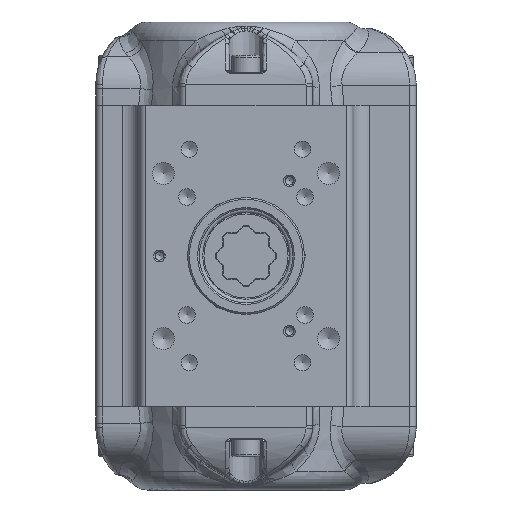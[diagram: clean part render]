
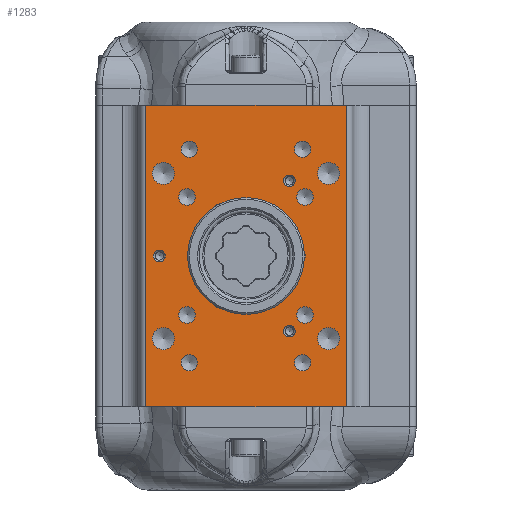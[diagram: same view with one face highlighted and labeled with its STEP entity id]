
A CAD part, front view. The second image highlights one B-rep face of the part: STEP entity #1283.
In plain terms, the highlighted planar face has unit normal (0, -1, 0).
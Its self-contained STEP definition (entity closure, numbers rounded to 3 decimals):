
#542=CARTESIAN_POINT('',(14.75,-49.5,22.517));
#543=VERTEX_POINT('',#542);
#544=CARTESIAN_POINT('',(13.,-49.5,22.517));
#545=DIRECTION('',(0.0,1.0,0.0));
#546=DIRECTION('',(1.0,0.0,0.0));
#547=AXIS2_PLACEMENT_3D('',#544,#545,#546);
#548=CIRCLE('',#547,1.75);
#549=EDGE_CURVE('',#543,#543,#548,.T.);
#599=CARTESIAN_POINT('',(-24.25,-49.5,0.0));
#600=VERTEX_POINT('',#599);
#601=CARTESIAN_POINT('',(-26.0,-49.5,0.0));
#602=DIRECTION('',(0.0,1.0,0.0));
#603=DIRECTION('',(1.0,0.0,0.0));
#604=AXIS2_PLACEMENT_3D('',#601,#602,#603);
#605=CIRCLE('',#604,1.75);
#606=EDGE_CURVE('',#600,#600,#605,.T.);
#656=CARTESIAN_POINT('',(14.75,-49.5,-22.517));
#657=VERTEX_POINT('',#656);
#658=CARTESIAN_POINT('',(13.,-49.5,-22.517));
#659=DIRECTION('',(0.0,1.0,0.0));
#660=DIRECTION('',(1.0,0.0,0.0));
#661=AXIS2_PLACEMENT_3D('',#658,#659,#660);
#662=CIRCLE('',#661,1.75);
#663=EDGE_CURVE('',#657,#657,#662,.T.);
#713=CARTESIAN_POINT('',(28.072,-49.5,-24.749));
#714=VERTEX_POINT('',#713);
#715=CARTESIAN_POINT('',(24.749,-49.5,-24.749));
#716=DIRECTION('',(0.0,1.0,0.0));
#717=DIRECTION('',(1.0,0.0,0.0));
#718=AXIS2_PLACEMENT_3D('',#715,#716,#717);
#719=CIRCLE('',#718,3.324);
#720=EDGE_CURVE('',#714,#714,#719,.T.);
#750=CARTESIAN_POINT('',(-21.425,-49.5,24.749));
#751=VERTEX_POINT('',#750);
#752=CARTESIAN_POINT('',(-24.749,-49.5,24.749));
#753=DIRECTION('',(0.0,1.0,0.0));
#754=DIRECTION('',(1.0,0.0,0.0));
#755=AXIS2_PLACEMENT_3D('',#752,#753,#754);
#756=CIRCLE('',#755,3.324);
#757=EDGE_CURVE('',#751,#751,#756,.T.);
#787=CARTESIAN_POINT('',(28.072,-49.5,24.749));
#788=VERTEX_POINT('',#787);
#789=CARTESIAN_POINT('',(24.749,-49.5,24.749));
#790=DIRECTION('',(0.0,1.0,0.0));
#791=DIRECTION('',(1.0,0.0,0.0));
#792=AXIS2_PLACEMENT_3D('',#789,#790,#791);
#793=CIRCLE('',#792,3.324);
#794=EDGE_CURVE('',#788,#788,#793,.T.);
#824=CARTESIAN_POINT('',(-21.425,-49.5,-24.749));
#825=VERTEX_POINT('',#824);
#826=CARTESIAN_POINT('',(-24.749,-49.5,-24.749));
#827=DIRECTION('',(0.0,1.0,0.0));
#828=DIRECTION('',(1.0,0.0,0.0));
#829=AXIS2_PLACEMENT_3D('',#826,#827,#828);
#830=CIRCLE('',#829,3.324);
#831=EDGE_CURVE('',#825,#825,#830,.T.);
#861=CARTESIAN_POINT('',(19.458,-49.5,-32.0));
#862=VERTEX_POINT('',#861);
#863=CARTESIAN_POINT('',(17.,-49.5,-32.0));
#864=DIRECTION('',(0.0,1.0,0.0));
#865=DIRECTION('',(1.0,0.0,0.0));
#866=AXIS2_PLACEMENT_3D('',#863,#864,#865);
#867=CIRCLE('',#866,2.459);
#868=EDGE_CURVE('',#862,#862,#867,.T.);
#898=CARTESIAN_POINT('',(-14.542,-49.5,32.0));
#899=VERTEX_POINT('',#898);
#900=CARTESIAN_POINT('',(-17.,-49.5,32.0));
#901=DIRECTION('',(0.0,1.0,0.0));
#902=DIRECTION('',(1.0,0.0,0.0));
#903=AXIS2_PLACEMENT_3D('',#900,#901,#902);
#904=CIRCLE('',#903,2.459);
#905=EDGE_CURVE('',#899,#899,#904,.T.);
#935=CARTESIAN_POINT('',(19.458,-49.5,32.0));
#936=VERTEX_POINT('',#935);
#937=CARTESIAN_POINT('',(17.,-49.5,32.0));
#938=DIRECTION('',(0.0,1.0,0.0));
#939=DIRECTION('',(1.0,0.0,0.0));
#940=AXIS2_PLACEMENT_3D('',#937,#938,#939);
#941=CIRCLE('',#940,2.459);
#942=EDGE_CURVE('',#936,#936,#941,.T.);
#972=CARTESIAN_POINT('',(-14.541,-49.5,-32.0));
#973=VERTEX_POINT('',#972);
#974=CARTESIAN_POINT('',(-17.,-49.5,-32.0));
#975=DIRECTION('',(0.0,1.0,0.0));
#976=DIRECTION('',(1.0,0.0,0.0));
#977=AXIS2_PLACEMENT_3D('',#974,#975,#976);
#978=CIRCLE('',#977,2.459);
#979=EDGE_CURVE('',#973,#973,#978,.T.);
#1009=CARTESIAN_POINT('',(20.136,-49.5,-17.678));
#1010=VERTEX_POINT('',#1009);
#1011=CARTESIAN_POINT('',(17.678,-49.5,-17.678));
#1012=DIRECTION('',(0.0,1.0,0.0));
#1013=DIRECTION('',(1.0,0.0,0.0));
#1014=AXIS2_PLACEMENT_3D('',#1011,#1012,#1013);
#1015=CIRCLE('',#1014,2.459);
#1016=EDGE_CURVE('',#1010,#1010,#1015,.T.);
#1046=CARTESIAN_POINT('',(-15.219,-49.5,17.678));
#1047=VERTEX_POINT('',#1046);
#1048=CARTESIAN_POINT('',(-17.678,-49.5,17.678));
#1049=DIRECTION('',(0.0,1.0,0.0));
#1050=DIRECTION('',(1.0,0.0,0.0));
#1051=AXIS2_PLACEMENT_3D('',#1048,#1049,#1050);
#1052=CIRCLE('',#1051,2.459);
#1053=EDGE_CURVE('',#1047,#1047,#1052,.T.);
#1083=CARTESIAN_POINT('',(20.136,-49.5,17.678));
#1084=VERTEX_POINT('',#1083);
#1085=CARTESIAN_POINT('',(17.678,-49.5,17.678));
#1086=DIRECTION('',(0.0,1.0,0.0));
#1087=DIRECTION('',(1.0,0.0,0.0));
#1088=AXIS2_PLACEMENT_3D('',#1085,#1086,#1087);
#1089=CIRCLE('',#1088,2.459);
#1090=EDGE_CURVE('',#1084,#1084,#1089,.T.);
#1120=CARTESIAN_POINT('',(-15.219,-49.5,-17.678));
#1121=VERTEX_POINT('',#1120);
#1122=CARTESIAN_POINT('',(-17.678,-49.5,-17.678));
#1123=DIRECTION('',(0.0,1.0,0.0));
#1124=DIRECTION('',(1.0,0.0,0.0));
#1125=AXIS2_PLACEMENT_3D('',#1122,#1123,#1124);
#1126=CIRCLE('',#1125,2.459);
#1127=EDGE_CURVE('',#1121,#1121,#1126,.T.);
#1151=CARTESIAN_POINT('',(14.,-49.5,0.));
#1152=VERTEX_POINT('',#1151);
#1153=CARTESIAN_POINT('',(0.0,-49.5,0.0));
#1154=DIRECTION('',(0.0,-1.0,0.0));
#1155=DIRECTION('',(-1.0,0.0,0.0));
#1156=AXIS2_PLACEMENT_3D('',#1153,#1154,#1155);
#1157=CIRCLE('',#1156,14.);
#1158=EDGE_CURVE('',#1152,#1152,#1157,.T.);
#1163=CARTESIAN_POINT('',(32.,-49.5,0.0));
#1164=DIRECTION('',(0.0,-1.0,0.0));
#1165=DIRECTION('',(0.0,0.0,-1.0));
#1166=AXIS2_PLACEMENT_3D('',#1163,#1164,#1165);
#1167=PLANE('',#1166);
#1168=CARTESIAN_POINT('',(30.,-49.5,45.15));
#1169=VERTEX_POINT('',#1168);
#1170=CARTESIAN_POINT('',(30.,-49.5,-45.15));
#1171=VERTEX_POINT('',#1170);
#1172=CARTESIAN_POINT('',(30.,-49.5,45.15));
#1173=DIRECTION('',(0.0,0.0,-1.0));
#1174=VECTOR('',#1173,90.3);
#1175=LINE('',#1172,#1174);
#1176=EDGE_CURVE('',#1169,#1171,#1175,.T.);
#1177=ORIENTED_EDGE('',*,*,#1176,.F.);
#1178=CARTESIAN_POINT('',(-30.,-49.5,45.15));
#1179=VERTEX_POINT('',#1178);
#1180=CARTESIAN_POINT('',(30.,-49.5,45.15));
#1181=DIRECTION('',(-1.0,0.0,0.0));
#1182=VECTOR('',#1181,60.);
#1183=LINE('',#1180,#1182);
#1184=EDGE_CURVE('',#1169,#1179,#1183,.T.);
#1185=ORIENTED_EDGE('',*,*,#1184,.T.);
#1186=CARTESIAN_POINT('',(-30.,-49.5,-45.15));
#1187=VERTEX_POINT('',#1186);
#1188=CARTESIAN_POINT('',(-30.,-49.5,-45.15));
#1189=DIRECTION('',(0.0,0.0,1.0));
#1190=VECTOR('',#1189,90.3);
#1191=LINE('',#1188,#1190);
#1192=EDGE_CURVE('',#1187,#1179,#1191,.T.);
#1193=ORIENTED_EDGE('',*,*,#1192,.F.);
#1194=CARTESIAN_POINT('',(-30.,-49.5,-45.15));
#1195=DIRECTION('',(1.0,0.0,0.0));
#1196=VECTOR('',#1195,60.);
#1197=LINE('',#1194,#1196);
#1198=EDGE_CURVE('',#1187,#1171,#1197,.T.);
#1199=ORIENTED_EDGE('',*,*,#1198,.T.);
#1200=EDGE_LOOP('',(#1177,#1185,#1193,#1199));
#1201=FACE_OUTER_BOUND('',#1200,.T.);
#1202=ORIENTED_EDGE('',*,*,#549,.T.);
#1203=EDGE_LOOP('',(#1202));
#1204=FACE_BOUND('',#1203,.T.);
#1205=ORIENTED_EDGE('',*,*,#606,.T.);
#1206=EDGE_LOOP('',(#1205));
#1207=FACE_BOUND('',#1206,.T.);
#1208=ORIENTED_EDGE('',*,*,#663,.T.);
#1209=EDGE_LOOP('',(#1208));
#1210=FACE_BOUND('',#1209,.T.);
#1211=ORIENTED_EDGE('',*,*,#720,.T.);
#1212=EDGE_LOOP('',(#1211));
#1213=FACE_BOUND('',#1212,.T.);
#1214=ORIENTED_EDGE('',*,*,#757,.T.);
#1215=EDGE_LOOP('',(#1214));
#1216=FACE_BOUND('',#1215,.T.);
#1217=ORIENTED_EDGE('',*,*,#794,.T.);
#1218=EDGE_LOOP('',(#1217));
#1219=FACE_BOUND('',#1218,.T.);
#1220=ORIENTED_EDGE('',*,*,#831,.T.);
#1221=EDGE_LOOP('',(#1220));
#1222=FACE_BOUND('',#1221,.T.);
#1223=CARTESIAN_POINT('',(-6.25,-49.5,-13.856));
#1224=VERTEX_POINT('',#1223);
#1225=CARTESIAN_POINT('',(-8.,-49.5,-13.856));
#1226=DIRECTION('',(0.0,1.0,0.0));
#1227=DIRECTION('',(1.0,0.0,0.0));
#1228=AXIS2_PLACEMENT_3D('',#1225,#1226,#1227);
#1229=CIRCLE('',#1228,1.75);
#1230=EDGE_CURVE('',#1224,#1224,#1229,.T.);
#1231=ORIENTED_EDGE('',*,*,#1230,.T.);
#1232=EDGE_LOOP('',(#1231));
#1233=FACE_BOUND('',#1232,.T.);
#1234=CARTESIAN_POINT('',(-6.25,-49.5,13.856));
#1235=VERTEX_POINT('',#1234);
#1236=CARTESIAN_POINT('',(-8.,-49.5,13.856));
#1237=DIRECTION('',(0.0,1.0,0.0));
#1238=DIRECTION('',(1.0,0.0,0.0));
#1239=AXIS2_PLACEMENT_3D('',#1236,#1237,#1238);
#1240=CIRCLE('',#1239,1.75);
#1241=EDGE_CURVE('',#1235,#1235,#1240,.T.);
#1242=ORIENTED_EDGE('',*,*,#1241,.T.);
#1243=EDGE_LOOP('',(#1242));
#1244=FACE_BOUND('',#1243,.T.);
#1245=CARTESIAN_POINT('',(17.75,-49.5,0.0));
#1246=VERTEX_POINT('',#1245);
#1247=CARTESIAN_POINT('',(16.0,-49.5,0.0));
#1248=DIRECTION('',(0.0,1.0,0.0));
#1249=DIRECTION('',(1.0,0.0,0.0));
#1250=AXIS2_PLACEMENT_3D('',#1247,#1248,#1249);
#1251=CIRCLE('',#1250,1.75);
#1252=EDGE_CURVE('',#1246,#1246,#1251,.T.);
#1253=ORIENTED_EDGE('',*,*,#1252,.T.);
#1254=EDGE_LOOP('',(#1253));
#1255=FACE_BOUND('',#1254,.T.);
#1256=ORIENTED_EDGE('',*,*,#868,.T.);
#1257=EDGE_LOOP('',(#1256));
#1258=FACE_BOUND('',#1257,.T.);
#1259=ORIENTED_EDGE('',*,*,#905,.T.);
#1260=EDGE_LOOP('',(#1259));
#1261=FACE_BOUND('',#1260,.T.);
#1262=ORIENTED_EDGE('',*,*,#942,.T.);
#1263=EDGE_LOOP('',(#1262));
#1264=FACE_BOUND('',#1263,.T.);
#1265=ORIENTED_EDGE('',*,*,#979,.T.);
#1266=EDGE_LOOP('',(#1265));
#1267=FACE_BOUND('',#1266,.T.);
#1268=ORIENTED_EDGE('',*,*,#1016,.T.);
#1269=EDGE_LOOP('',(#1268));
#1270=FACE_BOUND('',#1269,.T.);
#1271=ORIENTED_EDGE('',*,*,#1053,.T.);
#1272=EDGE_LOOP('',(#1271));
#1273=FACE_BOUND('',#1272,.T.);
#1274=ORIENTED_EDGE('',*,*,#1090,.T.);
#1275=EDGE_LOOP('',(#1274));
#1276=FACE_BOUND('',#1275,.T.);
#1277=ORIENTED_EDGE('',*,*,#1127,.T.);
#1278=EDGE_LOOP('',(#1277));
#1279=FACE_BOUND('',#1278,.T.);
#1280=ORIENTED_EDGE('',*,*,#1158,.F.);
#1281=EDGE_LOOP('',(#1280));
#1282=FACE_BOUND('',#1281,.T.);
#1283=ADVANCED_FACE('',(#1201,#1204,#1207,#1210,#1213,#1216,#1219,#1222,#1233,#1244,#1255,#1258,#1261,#1264,#1267,#1270,#1273,#1276,#1279,#1282),#1167,.T.);
